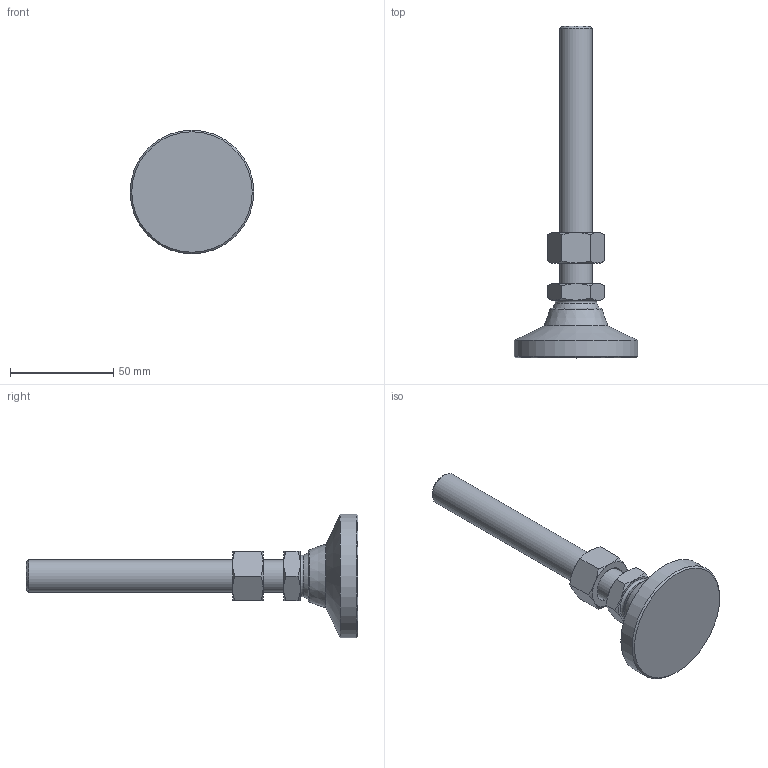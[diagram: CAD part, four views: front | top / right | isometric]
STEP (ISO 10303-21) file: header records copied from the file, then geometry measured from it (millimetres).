
FILE_DESCRIPTION( ( 'STEP AP214' ), ' ' );
FILE_NAME( 'O:/ganter_2015/teil_2/2_5/gn343_2/gn343_2_os/Levelling foot with threaded stud GN 343.2-60-M16-125-OS-(0).stp', '2015-10-26T09:08:38', ( '' ), ( '' ), ' ', 'PARTsolutions', ' ' );
FILE_SCHEMA( ( 'AUTOMOTIVE_DESIGN { 1 0 10303 214 1 1 1 1 }' ) );
Length unit declared in the file: millimetre
Products named in the file (4): Levelling foot with threaded stud GN 343.2-60-M16-125-OS-(0); _Levelling foot with threaded stud GN 343.2-60-M16-125-OS-(0)_foot; _Levelling foot with threaded stud GN 343.2-60-M16-125-OS-(0)_screw; _Stainless Steel-Levelling feet GN 343.2-60-M16-125-OS-(0)_nut
Assembly tree (3 placements, depth 2):
  Levelling foot with threaded stud GN 343.2-60-M16-125-OS-(0)
    _Levelling foot with threaded stud GN 343.2-60-M16-125-OS-(0)_foot
    _Levelling foot with threaded stud GN 343.2-60-M16-125-OS-(0)_screw
    _Stainless Steel-Levelling feet GN 343.2-60-M16-125-OS-(0)_nut
Bounding box: 60 x 161 x 60 mm (x, y, z)
Volume: 76475 mm3; surface area: 20024.1 mm2
Topology: 3 solids, 3 shells, 56 faces, 117 edges, 68 vertices
Faces by surface type: cone 30, plane 19, cylinder 3, torus 2, sphere 2
Full cylindrical faces by diameter (mm): 13.835 x1, 16 x1, 60 x1
Entity records: 2082 total; most frequent: CARTESIAN_POINT 514, DIRECTION 212, ORIENTED_EDGE 200, AXIS2_PLACEMENT_3D 100, EDGE_CURVE 100, EDGE_LOOP 72, VERTEX_POINT 66, FACE_OUTER_BOUND 61
